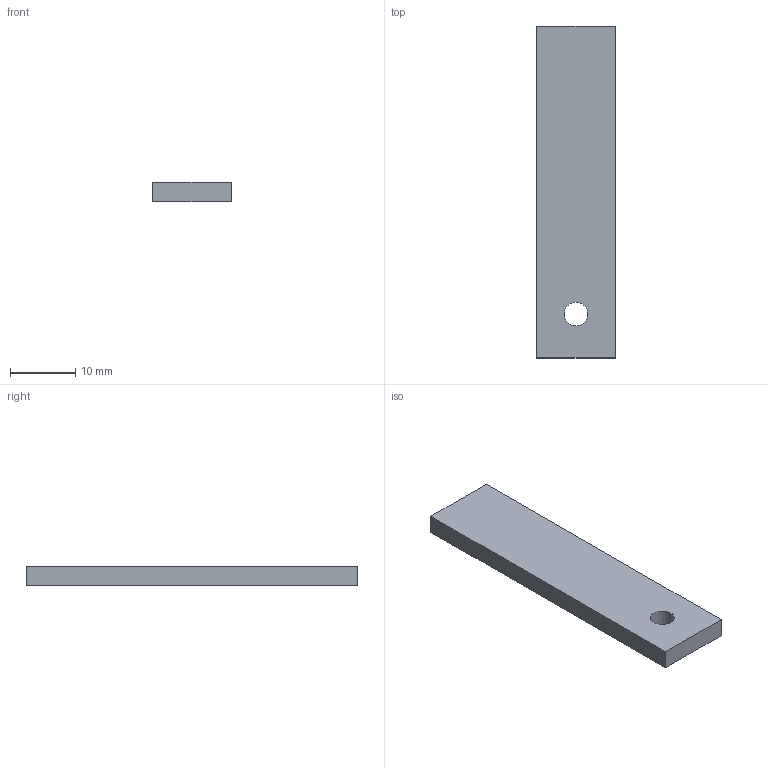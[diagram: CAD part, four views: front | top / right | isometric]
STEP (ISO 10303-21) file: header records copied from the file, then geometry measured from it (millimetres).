
FILE_DESCRIPTION(('Open CASCADE Model'),'2;1');
FILE_NAME('Open CASCADE Shape Model','2026-11-20T22:44:44',('Author'),( 'Open CASCADE'),'Open CASCADE STEP processor 7.8','Open CASCADE 7.8' ,'Unknown');
FILE_SCHEMA(('AUTOMOTIVE_DESIGN { 1 0 10303 214 1 1 1 1 }'));
Length unit declared in the file: millimetre
Products named in the file (1): Open CASCADE STEP translator 7.8 8
Bounding box: 12 x 50.7 x 3 mm (x, y, z)
Volume: 1794.7 mm3; surface area: 1606.6 mm2
Topology: 1 solids, 1 shells, 7 faces, 15 edges, 10 vertices
Faces by surface type: plane 6, cylinder 1
Full cylindrical faces by diameter (mm): 3.6 x1
Entity records: 400 total; most frequent: CARTESIAN_POINT 63, DIRECTION 63, LINE 41, VECTOR 41, ORIENTED_EDGE 30, PCURVE 30, DEFINITIONAL_REPRESENTATION 30, EDGE_CURVE 15
